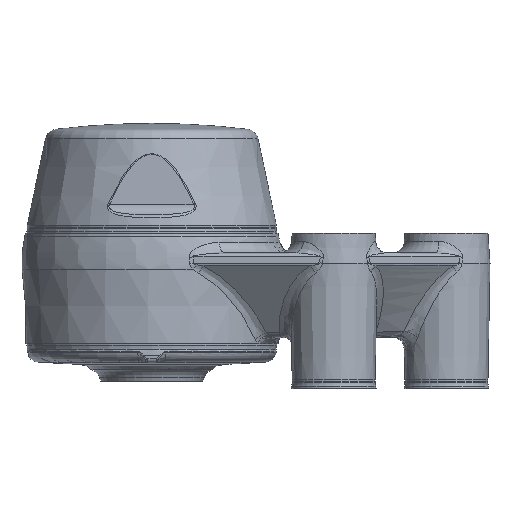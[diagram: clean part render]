
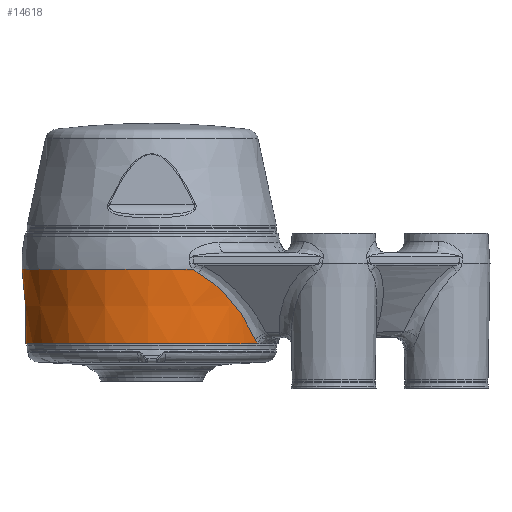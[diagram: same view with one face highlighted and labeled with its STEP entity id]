
A CAD part, left-side view. The second image highlights one B-rep face of the part: STEP entity #14618.
In plain terms, the highlighted conical face has half-angle 2.646 degrees and reference radius 33 mm.
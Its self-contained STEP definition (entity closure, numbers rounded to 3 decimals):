
#378 = CARTESIAN_POINT ( 'NONE',  ( -23.98, -21.766, -5.142 ) ) ;
#559 = ORIENTED_EDGE ( 'NONE', *, *, #7061, .T. ) ;
#752 = B_SPLINE_CURVE_WITH_KNOTS ( 'NONE', 3,
 ( #16121, #28332, #11259, #21498, #18725, #13855, #3940, #15972, #31083, #1670 ),
 .UNSPECIFIED., .F., .F.,
 ( 4, 2, 2, 2, 4 ),
 ( 0., 0.006, 0.013, 0.019, 0.026 ),
 .UNSPECIFIED. ) ;
#1363 = VERTEX_POINT ( 'NONE', #8768 ) ;
#1427 = ORIENTED_EDGE ( 'NONE', *, *, #20995, .T. ) ;
#1489 = EDGE_CURVE ( 'NONE', #16354, #21991, #29179, .T. ) ;
#1529 = CIRCLE ( 'NONE', #3077, 32.807 ) ;
#1670 = CARTESIAN_POINT ( 'NONE',  ( 18.222, -26.282, -13.044 ) ) ;
#1961 = AXIS2_PLACEMENT_3D ( 'NONE', #21712, #11617, #21543 ) ;
#2013 = CARTESIAN_POINT ( 'NONE',  ( 0., 32.807, 4.828 ) ) ;
#2323 = VERTEX_POINT ( 'NONE', #2785 ) ;
#2751 = AXIS2_PLACEMENT_3D ( 'NONE', #5222, #27167, #14817 ) ;
#2785 = CARTESIAN_POINT ( 'NONE',  ( 31.089, -10.477, 4.828 ) ) ;
#3077 = AXIS2_PLACEMENT_3D ( 'NONE', #18638, #21404, #9045 ) ;
#3940 = CARTESIAN_POINT ( 'NONE',  ( 22.877, -22.818, -6.655 ) ) ;
#4284 = CIRCLE ( 'NONE', #2751, 31.942 ) ;
#4606 = CARTESIAN_POINT ( 'NONE',  ( 30.566, -11.798, 3.878 ) ) ;
#5222 = CARTESIAN_POINT ( 'NONE',  ( 0., 0., -13.9 ) ) ;
#5391 = CARTESIAN_POINT ( 'NONE',  ( -27.095, -18.111, -0.873 ) ) ;
#5786 = FACE_OUTER_BOUND ( 'NONE', #13381, .T. ) ;
#6037 = DIRECTION ( 'NONE',  ( 0., 0., 1. ) ) ;
#6476 = ORIENTED_EDGE ( 'NONE', *, *, #26578, .T. ) ;
#7061 = EDGE_CURVE ( 'NONE', #21300, #7746, #752, .T. ) ;
#7746 = VERTEX_POINT ( 'NONE', #22555 ) ;
#7825 = B_SPLINE_CURVE_WITH_KNOTS ( 'NONE', 3,
 ( #8089, #17984, #8405, #27920 ),
 .UNSPECIFIED., .F., .F.,
 ( 4, 4 ),
 ( 0., 0.001 ),
 .UNSPECIFIED. ) ;
#8078 = B_SPLINE_CURVE_WITH_KNOTS ( 'NONE', 3,
 ( #28136, #22637, #15140, #13179, #378, #27496, #5391, #10590, #18048, #30093 ),
 .UNSPECIFIED., .F., .F.,
 ( 4, 2, 2, 2, 4 ),
 ( 0., 0.006, 0.013, 0.019, 0.026 ),
 .UNSPECIFIED. ) ;
#8089 = CARTESIAN_POINT ( 'NONE',  ( 18.222, -26.282, -13.044 ) ) ;
#8290 = CARTESIAN_POINT ( 'NONE',  ( -31.013, -10.676, 4.636 ) ) ;
#8405 = CARTESIAN_POINT ( 'NONE',  ( 17.742, -26.577, -13.643 ) ) ;
#8547 = DIRECTION ( 'NONE',  ( 0., -1., 0. ) ) ;
#8617 = ORIENTED_EDGE ( 'NONE', *, *, #19976, .T. ) ;
#8768 = CARTESIAN_POINT ( 'NONE',  ( -18.222, -26.282, -13.044 ) ) ;
#9045 = DIRECTION ( 'NONE',  ( 0., 1., 0. ) ) ;
#9553 = CARTESIAN_POINT ( 'NONE',  ( -18.222, -26.282, -13.044 ) ) ;
#9656 = CARTESIAN_POINT ( 'NONE',  ( 30.663, -11.563, 4.011 ) ) ;
#9724 = EDGE_CURVE ( 'NONE', #27247, #11004, #4284, .T. ) ;
#10590 = CARTESIAN_POINT ( 'NONE',  ( -28.976, -15.174, 1.704 ) ) ;
#11004 = VERTEX_POINT ( 'NONE', #30690 ) ;
#11259 = CARTESIAN_POINT ( 'NONE',  ( 28.976, -15.175, 1.703 ) ) ;
#11347 = CARTESIAN_POINT ( 'NONE',  ( -30.566, -11.798, 3.878 ) ) ;
#11567 = VERTEX_POINT ( 'NONE', #2013 ) ;
#11617 = DIRECTION ( 'NONE',  ( 0., 0., -1. ) ) ;
#11804 = AXIS2_PLACEMENT_3D ( 'NONE', #23434, #6037, #18542 ) ;
#12415 = ORIENTED_EDGE ( 'NONE', *, *, #1489, .T. ) ;
#12419 = B_SPLINE_CURVE_WITH_KNOTS ( 'NONE', 3,
 ( #25909, #13551, #23476, #21049, #9656, #4606 ),
 .UNSPECIFIED., .F., .F.,
 ( 4, 2, 4 ),
 ( 0., 0.001, 0.002 ),
 .UNSPECIFIED. ) ;
#12942 = CARTESIAN_POINT ( 'NONE',  ( 0., 0., 9. ) ) ;
#13179 = CARTESIAN_POINT ( 'NONE',  ( -22.877, -22.818, -6.655 ) ) ;
#13381 = EDGE_LOOP ( 'NONE', ( #30770, #6476, #18357, #14121, #12415, #21995, #1427, #21114, #559, #8617 ) ) ;
#13551 = CARTESIAN_POINT ( 'NONE',  ( 31.013, -10.676, 4.636 ) ) ;
#13742 = EDGE_CURVE ( 'NONE', #2323, #21300, #12419, .T. ) ;
#13855 = CARTESIAN_POINT ( 'NONE',  ( 23.98, -21.766, -5.142 ) ) ;
#14121 = ORIENTED_EDGE ( 'NONE', *, *, #29966, .T. ) ;
#14144 = CARTESIAN_POINT ( 'NONE',  ( -17.471, -26.74, -13.9 ) ) ;
#14442 = EDGE_CURVE ( 'NONE', #26110, #1363, #29461, .T. ) ;
#14575 = CARTESIAN_POINT ( 'NONE',  ( -17.742, -26.577, -13.643 ) ) ;
#14618 = ADVANCED_FACE ( 'NONE', ( #5786 ), #28362, .T. ) ;
#14817 = DIRECTION ( 'NONE',  ( 0., 1., 0. ) ) ;
#15058 = CARTESIAN_POINT ( 'NONE',  ( -17.471, -26.74, -13.9 ) ) ;
#15140 = CARTESIAN_POINT ( 'NONE',  ( -20.589, -24.713, -9.793 ) ) ;
#15363 = CARTESIAN_POINT ( 'NONE',  ( 30.566, -11.798, 3.878 ) ) ;
#15972 = CARTESIAN_POINT ( 'NONE',  ( 20.589, -24.713, -9.793 ) ) ;
#16121 = CARTESIAN_POINT ( 'NONE',  ( 30.566, -11.798, 3.878 ) ) ;
#16192 = CARTESIAN_POINT ( 'NONE',  ( -31.089, -10.477, 4.828 ) ) ;
#16354 = VERTEX_POINT ( 'NONE', #11347 ) ;
#17497 = CARTESIAN_POINT ( 'NONE',  ( -17.995, -26.422, -13.356 ) ) ;
#17984 = CARTESIAN_POINT ( 'NONE',  ( 17.993, -26.424, -13.359 ) ) ;
#18048 = CARTESIAN_POINT ( 'NONE',  ( -29.83, -13.574, 2.872 ) ) ;
#18357 = ORIENTED_EDGE ( 'NONE', *, *, #14442, .T. ) ;
#18542 = DIRECTION ( 'NONE',  ( 0., 1., 0. ) ) ;
#18638 = CARTESIAN_POINT ( 'NONE',  ( 0., 0., 4.828 ) ) ;
#18725 = CARTESIAN_POINT ( 'NONE',  ( 26.089, -19.412, -2.251 ) ) ;
#19065 = CIRCLE ( 'NONE', #1961, 32.807 ) ;
#19976 = EDGE_CURVE ( 'NONE', #7746, #27247, #7825, .T. ) ;
#20971 = CARTESIAN_POINT ( 'NONE',  ( -30.663, -11.563, 4.011 ) ) ;
#20995 = EDGE_CURVE ( 'NONE', #11567, #2323, #1529, .T. ) ;
#21049 = CARTESIAN_POINT ( 'NONE',  ( 30.755, -11.334, 4.154 ) ) ;
#21114 = ORIENTED_EDGE ( 'NONE', *, *, #13742, .T. ) ;
#21300 = VERTEX_POINT ( 'NONE', #15363 ) ;
#21404 = DIRECTION ( 'NONE',  ( 0., 0., -1. ) ) ;
#21498 = CARTESIAN_POINT ( 'NONE',  ( 27.095, -18.111, -0.873 ) ) ;
#21543 = DIRECTION ( 'NONE',  ( 0., 1., 0. ) ) ;
#21712 = CARTESIAN_POINT ( 'NONE',  ( 0., 0., 4.828 ) ) ;
#21991 = VERTEX_POINT ( 'NONE', #16192 ) ;
#21995 = ORIENTED_EDGE ( 'NONE', *, *, #26349, .T. ) ;
#22257 = CARTESIAN_POINT ( 'NONE',  ( 17.471, -26.74, -13.9 ) ) ;
#22555 = CARTESIAN_POINT ( 'NONE',  ( 18.222, -26.282, -13.044 ) ) ;
#22637 = CARTESIAN_POINT ( 'NONE',  ( -19.417, -25.546, -11.402 ) ) ;
#23407 = CARTESIAN_POINT ( 'NONE',  ( -30.755, -11.334, 4.154 ) ) ;
#23434 = CARTESIAN_POINT ( 'NONE',  ( 0., 0., -13.9 ) ) ;
#23476 = CARTESIAN_POINT ( 'NONE',  ( 30.93, -10.89, 4.466 ) ) ;
#23727 = CIRCLE ( 'NONE', #11804, 31.942 ) ;
#25670 = CARTESIAN_POINT ( 'NONE',  ( -31.089, -10.477, 4.828 ) ) ;
#25909 = CARTESIAN_POINT ( 'NONE',  ( 31.089, -10.477, 4.828 ) ) ;
#26110 = VERTEX_POINT ( 'NONE', #14144 ) ;
#26261 = AXIS2_PLACEMENT_3D ( 'NONE', #12942, #30486, #8547 ) ;
#26307 = CARTESIAN_POINT ( 'NONE',  ( -30.566, -11.798, 3.878 ) ) ;
#26349 = EDGE_CURVE ( 'NONE', #21991, #11567, #19065, .T. ) ;
#26578 = EDGE_CURVE ( 'NONE', #11004, #26110, #23727, .T. ) ;
#27167 = DIRECTION ( 'NONE',  ( 0., 0., 1. ) ) ;
#27247 = VERTEX_POINT ( 'NONE', #22257 ) ;
#27496 = CARTESIAN_POINT ( 'NONE',  ( -26.089, -19.412, -2.251 ) ) ;
#27920 = CARTESIAN_POINT ( 'NONE',  ( 17.471, -26.74, -13.9 ) ) ;
#28136 = CARTESIAN_POINT ( 'NONE',  ( -18.222, -26.282, -13.044 ) ) ;
#28332 = CARTESIAN_POINT ( 'NONE',  ( 29.83, -13.574, 2.872 ) ) ;
#28362 = CONICAL_SURFACE ( 'NONE', #26261, 33., 0.046 ) ;
#28747 = CARTESIAN_POINT ( 'NONE',  ( -30.93, -10.89, 4.466 ) ) ;
#29179 = B_SPLINE_CURVE_WITH_KNOTS ( 'NONE', 3,
 ( #26307, #20971, #23407, #28747, #8290, #25670 ),
 .UNSPECIFIED., .F., .F.,
 ( 4, 2, 4 ),
 ( 0., 0.001, 0.002 ),
 .UNSPECIFIED. ) ;
#29461 = B_SPLINE_CURVE_WITH_KNOTS ( 'NONE', 3,
 ( #15058, #14575, #17497, #9553 ),
 .UNSPECIFIED., .F., .F.,
 ( 4, 4 ),
 ( 0.005, 0.006 ),
 .UNSPECIFIED. ) ;
#29966 = EDGE_CURVE ( 'NONE', #1363, #16354, #8078, .T. ) ;
#30093 = CARTESIAN_POINT ( 'NONE',  ( -30.566, -11.798, 3.878 ) ) ;
#30486 = DIRECTION ( 'NONE',  ( 0., 0., 1. ) ) ;
#30690 = CARTESIAN_POINT ( 'NONE',  ( 0., 31.942, -13.9 ) ) ;
#30770 = ORIENTED_EDGE ( 'NONE', *, *, #9724, .T. ) ;
#31083 = CARTESIAN_POINT ( 'NONE',  ( 19.417, -25.546, -11.402 ) ) ;
